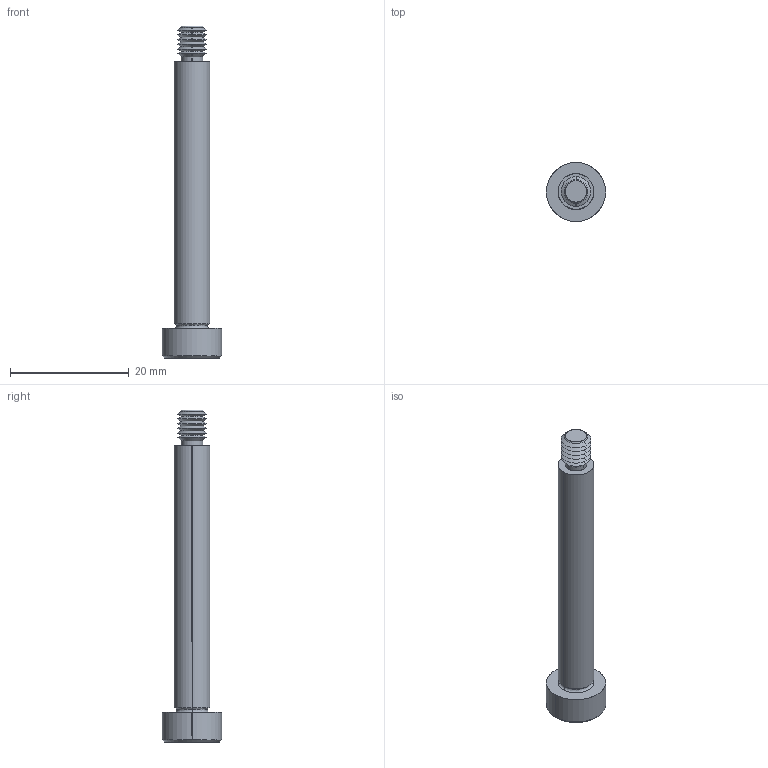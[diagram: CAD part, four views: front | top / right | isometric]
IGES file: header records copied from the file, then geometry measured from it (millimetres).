
Start section: SolidWorks IGES file using analytic representation for surfaces
Global section: file name: C:\Users\IanO\Documents\Temp Folder\GENERAL\SCREW REVISION\P0130_v2\P0130.T5_v2_20220106_IGES\P0130.060-045-T5.igs; native system: SolidWorks 2019; preprocessor: SolidWorks 2019; author: IanO; date: 220106.222641; units: millimetre
Bounding box: 10 x 10 x 56 mm (x, y, z)
Surface area: 1335.8 mm2 (no closed solid volume)
Topology: 0 solids, 0 shells, 64 faces, 504 edges, 502 vertices
Faces by surface type: revolution 44, bspline 20
